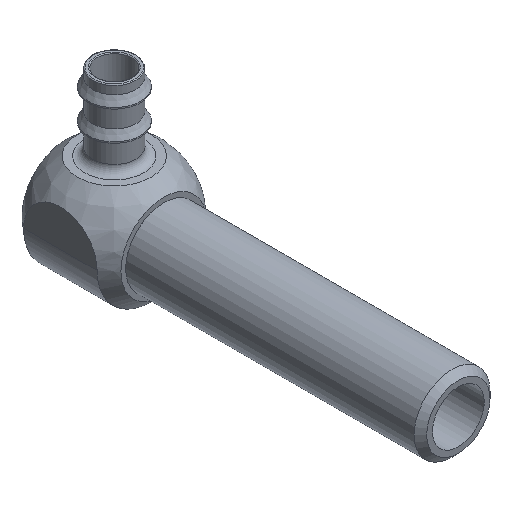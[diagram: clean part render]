
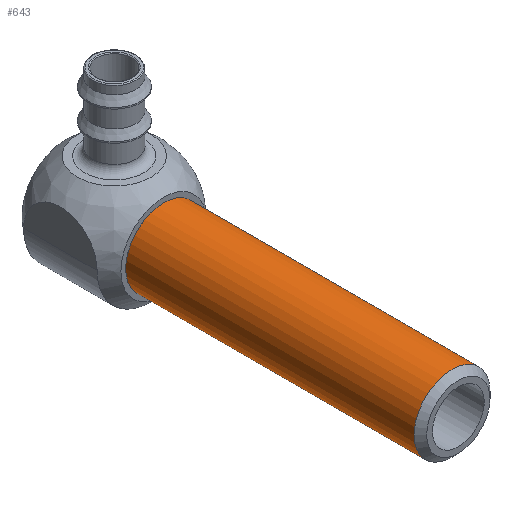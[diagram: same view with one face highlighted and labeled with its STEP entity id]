
A CAD part, isometric view. The second image highlights one B-rep face of the part: STEP entity #643.
In plain terms, the highlighted cylindrical face has radius 11.048 mm (diameter 22.095 mm), a full revolution.
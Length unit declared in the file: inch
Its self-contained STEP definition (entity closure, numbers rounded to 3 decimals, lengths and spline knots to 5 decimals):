
#67=CYLINDRICAL_SURFACE('',#699,0.43495);
#79=FACE_OUTER_BOUND('',#116,.T.);
#116=EDGE_LOOP('',(#453,#454,#455,#456,#457));
#165=LINE('',#1009,#199);
#199=VECTOR('',#798,0.4375);
#233=CIRCLE('',#697,0.43495);
#234=CIRCLE('',#698,0.43495);
#235=CIRCLE('',#700,0.43495);
#284=VERTEX_POINT('',#1002);
#285=VERTEX_POINT('',#1004);
#286=VERTEX_POINT('',#1008);
#355=EDGE_CURVE('',#284,#285,#233,.F.);
#356=EDGE_CURVE('',#285,#284,#234,.F.);
#357=EDGE_CURVE('',#285,#286,#165,.T.);
#358=EDGE_CURVE('',#286,#286,#235,.T.);
#453=ORIENTED_EDGE('',*,*,#356,.F.);
#454=ORIENTED_EDGE('',*,*,#357,.T.);
#455=ORIENTED_EDGE('',*,*,#358,.T.);
#456=ORIENTED_EDGE('',*,*,#357,.F.);
#457=ORIENTED_EDGE('',*,*,#355,.F.);
#643=ADVANCED_FACE('',(#79),#67,.T.);
#697=AXIS2_PLACEMENT_3D('',#1005,#792,#793);
#698=AXIS2_PLACEMENT_3D('',#1006,#794,#795);
#699=AXIS2_PLACEMENT_3D('',#1007,#796,#797);
#700=AXIS2_PLACEMENT_3D('',#1010,#799,#800);
#792=DIRECTION('center_axis',(0.,1.,0.));
#793=DIRECTION('ref_axis',(0.,0.,-1.));
#794=DIRECTION('center_axis',(0.,1.,0.));
#795=DIRECTION('ref_axis',(0.,0.,-1.));
#796=DIRECTION('center_axis',(0.,-1.,0.));
#797=DIRECTION('ref_axis',(0.,0.,-1.));
#798=DIRECTION('',(0.,1.,0.));
#799=DIRECTION('center_axis',(0.,-1.,0.));
#800=DIRECTION('ref_axis',(0.,0.,-1.));
#1002=CARTESIAN_POINT('',(0.,-3.30255,-0.43495));
#1004=CARTESIAN_POINT('',(0.,-3.30255,0.43495));
#1005=CARTESIAN_POINT('Origin',(0.,-3.30255,0.));
#1006=CARTESIAN_POINT('Origin',(0.,-3.30255,0.));
#1007=CARTESIAN_POINT('Origin',(0.,-1.6875,0.));
#1008=CARTESIAN_POINT('',(0.,0.,0.43495));
#1009=CARTESIAN_POINT('',(0.,-1.6875,0.43495));
#1010=CARTESIAN_POINT('Origin',(0.,0.,0.));
